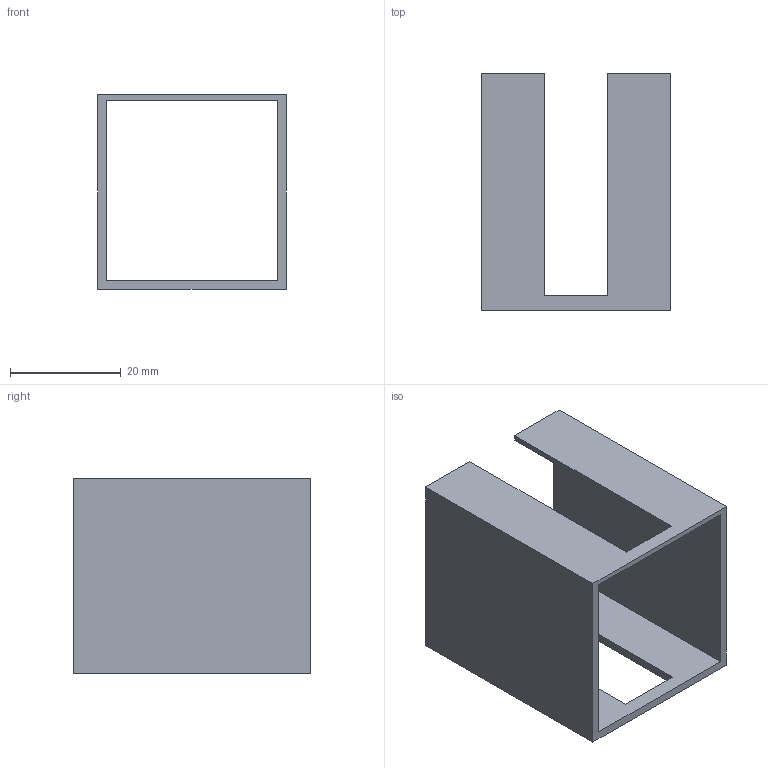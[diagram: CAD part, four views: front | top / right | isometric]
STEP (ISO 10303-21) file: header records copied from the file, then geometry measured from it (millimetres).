
FILE_DESCRIPTION(/* description */ ('STEP AP242 Edition 2','CAx-IF Rec.Pracs.---Representation and Presentation of Product Manufacturing Information (PMI)---4.0---2014-10-13','CAx-IF Rec.Pracs.---3D Tessellated Geometry---0.4---2014-09-14','2;1','CAx-IF Rec.Pracs.---User Defined Attributes---1.5---2016-08-15'),/* implementation_level */ '2;1');
FILE_NAME(/* name */ 'Assembly 1 - Chassis',/* time_stamp */ '2026-08-25T12:50:00Z',/* author */ (''),/* organization */ (''),/* preprocessor_version */ 'ST-DEVELOPER v20',/* originating_system */ 'ONSHAPE BY PTC INC, 1.219',/* authorisation */ ' ');
FILE_SCHEMA (('AP242_MANAGED_MODEL_BASED_3D_ENGINEERING_MIM_LF { 1 0 10303 442 3 1 4 }'));
Length unit declared in the file: metre
Products named in the file (1): Chassis
Bounding box: 34 x 42.66 x 35 mm (x, y, z)
Volume: 6607.6 mm3; surface area: 9993.9 mm2
Topology: 1 solids, 1 shells, 17 faces, 48 edges, 32 vertices
Faces by surface type: plane 17
Entity records: 568 total; most frequent: CARTESIAN_POINT 98, ORIENTED_EDGE 96, DIRECTION 84, EDGE_CURVE 48, LINE 48, VECTOR 48, VERTEX_POINT 32, EDGE_LOOP 18
